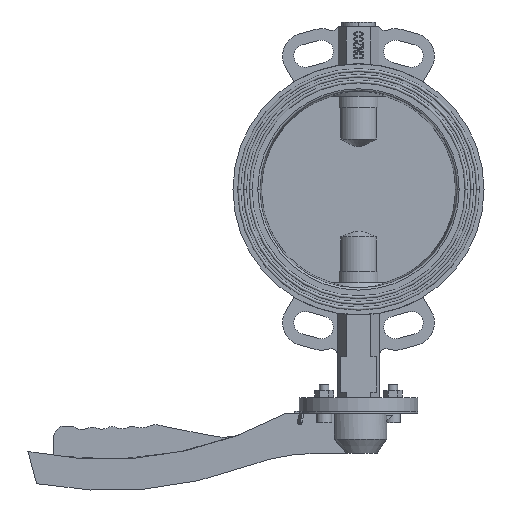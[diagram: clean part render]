
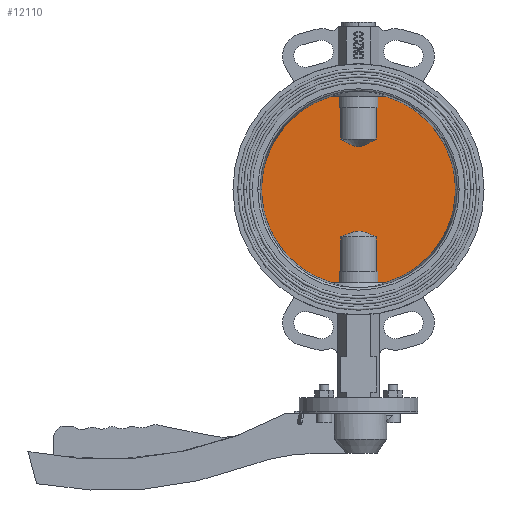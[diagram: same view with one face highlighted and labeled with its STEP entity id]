
A CAD part, front view. The second image highlights one B-rep face of the part: STEP entity #12110.
In plain terms, the highlighted planar face has unit normal (0, -1, 0) as drawn and (0, 1, 0) by its records, which use the part's own axes.
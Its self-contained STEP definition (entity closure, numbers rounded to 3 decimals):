
#11515=DIRECTION('',(0.,0.,-1.));
#11516=VECTOR('',#11515,12.);
#11517=CARTESIAN_POINT('',(20.494,6.5,-86.));
#11518=LINE('',#11517,#11516);
#11519=DIRECTION('',(1.,0.,0.));
#11520=VECTOR('',#11519,7.79);
#11521=CARTESIAN_POINT('',(20.494,6.5,-98.));
#11522=LINE('',#11521,#11520);
#11523=DIRECTION('',(-1.,0.,0.));
#11524=VECTOR('',#11523,7.79);
#11525=CARTESIAN_POINT('',(28.284,6.5,98.));
#11526=LINE('',#11525,#11524);
#11527=DIRECTION('',(0.,0.,-1.));
#11528=VECTOR('',#11527,12.);
#11529=CARTESIAN_POINT('',(20.494,6.5,98.));
#11530=LINE('',#11529,#11528);
#11531=DIRECTION('',(-1.,0.,0.));
#11532=VECTOR('',#11531,1.58);
#11533=CARTESIAN_POINT('',(20.494,6.5,86.));
#11534=LINE('',#11533,#11532);
#11535=DIRECTION('',(0.,0.,-1.));
#11536=VECTOR('',#11535,36.);
#11537=CARTESIAN_POINT('',(18.914,6.5,86.));
#11538=LINE('',#11537,#11536);
#11539=DIRECTION('',(0.,0.,-1.));
#11540=VECTOR('',#11539,36.);
#11541=CARTESIAN_POINT('',(-18.914,6.5,86.));
#11542=LINE('',#11541,#11540);
#11543=DIRECTION('',(-1.,0.,0.));
#11544=VECTOR('',#11543,1.58);
#11545=CARTESIAN_POINT('',(-18.914,6.5,86.));
#11546=LINE('',#11545,#11544);
#11547=DIRECTION('',(0.,0.,-1.));
#11548=VECTOR('',#11547,12.);
#11549=CARTESIAN_POINT('',(-20.494,6.5,98.));
#11550=LINE('',#11549,#11548);
#11551=DIRECTION('',(-1.,0.,0.));
#11552=VECTOR('',#11551,7.79);
#11553=CARTESIAN_POINT('',(-20.494,6.5,98.));
#11554=LINE('',#11553,#11552);
#11555=DIRECTION('',(1.,0.,0.));
#11556=VECTOR('',#11555,7.79);
#11557=CARTESIAN_POINT('',(-28.284,6.5,-98.));
#11558=LINE('',#11557,#11556);
#11559=DIRECTION('',(0.,0.,-1.));
#11560=VECTOR('',#11559,12.);
#11561=CARTESIAN_POINT('',(-20.494,6.5,-86.));
#11562=LINE('',#11561,#11560);
#11563=DIRECTION('',(-1.,0.,0.));
#11564=VECTOR('',#11563,1.58);
#11565=CARTESIAN_POINT('',(-18.914,6.5,-86.));
#11566=LINE('',#11565,#11564);
#11567=DIRECTION('',(0.,0.,-1.));
#11568=VECTOR('',#11567,33.);
#11569=CARTESIAN_POINT('',(-18.914,6.5,-53.));
#11570=LINE('',#11569,#11568);
#11571=DIRECTION('',(0.,0.,-1.));
#11572=VECTOR('',#11571,33.);
#11573=CARTESIAN_POINT('',(18.914,6.5,-53.));
#11574=LINE('',#11573,#11572);
#11575=DIRECTION('',(-1.,0.,0.));
#11576=VECTOR('',#11575,1.58);
#11577=CARTESIAN_POINT('',(20.494,6.5,-86.));
#11578=LINE('',#11577,#11576);
#11588=CARTESIAN_POINT('',(0.,6.5,0.));
#11589=DIRECTION('',(0.,1.,0.));
#11590=DIRECTION('',(0.277,0.,0.961));
#11591=AXIS2_PLACEMENT_3D('',#11588,#11589,#11590);
#11597=CARTESIAN_POINT('',(0.,6.5,0.));
#11598=DIRECTION('',(0.,1.,0.));
#11599=DIRECTION('',(-0.277,0.,-0.961));
#11600=AXIS2_PLACEMENT_3D('',#11597,#11598,#11599);
#11700=CARTESIAN_POINT('',(-18.914,6.5,50.));
#11701=CARTESIAN_POINT('',(-17.848,6.5,49.546));
#11702=CARTESIAN_POINT('',(-15.802,6.5,48.683));
#11703=CARTESIAN_POINT('',(-12.992,6.5,47.53));
#11704=CARTESIAN_POINT('',(-10.427,6.5,46.519));
#11705=CARTESIAN_POINT('',(-8.1,6.5,45.66));
#11706=CARTESIAN_POINT('',(-5.997,6.5,44.962));
#11707=CARTESIAN_POINT('',(-4.126,6.5,44.443));
#11708=CARTESIAN_POINT('',(-2.437,6.5,44.098));
#11709=CARTESIAN_POINT('',(-0.809,6.5,43.918));
#11710=CARTESIAN_POINT('',(0.81,6.5,43.918));
#11711=CARTESIAN_POINT('',(2.438,6.5,44.098));
#11712=CARTESIAN_POINT('',(4.126,6.5,44.443));
#11713=CARTESIAN_POINT('',(5.998,6.5,44.962));
#11714=CARTESIAN_POINT('',(8.1,6.5,45.66));
#11715=CARTESIAN_POINT('',(10.428,6.5,46.519));
#11716=CARTESIAN_POINT('',(12.993,6.5,47.53));
#11717=CARTESIAN_POINT('',(15.802,6.5,48.684));
#11718=CARTESIAN_POINT('',(17.848,6.5,49.546));
#11719=CARTESIAN_POINT('',(18.914,6.5,50.));
#11806=CARTESIAN_POINT('',(18.914,6.5,-53.));
#11807=CARTESIAN_POINT('',(17.916,6.5,-52.433));
#11808=CARTESIAN_POINT('',(15.995,6.5,-51.353));
#11809=CARTESIAN_POINT('',(13.343,6.5,-49.897));
#11810=CARTESIAN_POINT('',(10.906,6.5,-48.607));
#11811=CARTESIAN_POINT('',(8.674,6.5,-47.488));
#11812=CARTESIAN_POINT('',(6.634,6.5,-46.553));
#11813=CARTESIAN_POINT('',(4.782,6.5,-45.817));
#11814=CARTESIAN_POINT('',(3.108,6.5,-45.294));
#11815=CARTESIAN_POINT('',(1.546,6.5,-44.975));
#11816=CARTESIAN_POINT('',(0.005,6.5,-44.863));
#11817=CARTESIAN_POINT('',(-1.536,6.5,-44.973));
#11818=CARTESIAN_POINT('',(-3.091,6.5,-45.289));
#11819=CARTESIAN_POINT('',(-4.755,6.5,-45.807));
#11820=CARTESIAN_POINT('',(-6.608,6.5,-46.541));
#11821=CARTESIAN_POINT('',(-8.647,6.5,-47.475));
#11822=CARTESIAN_POINT('',(-10.883,6.5,-48.594));
#11823=CARTESIAN_POINT('',(-13.326,6.5,-49.888));
#11824=CARTESIAN_POINT('',(-15.985,6.5,-51.347));
#11825=CARTESIAN_POINT('',(-17.912,6.5,-52.431));
#11826=CARTESIAN_POINT('',(-18.914,6.5,-53.));
#11852=CARTESIAN_POINT('',(28.284,6.5,-98.));
#11854=VERTEX_POINT('',#11852);
#11856=CARTESIAN_POINT('',(-28.284,6.5,-98.));
#11858=VERTEX_POINT('',#11856);
#11860=CARTESIAN_POINT('',(-28.284,6.5,98.));
#11862=VERTEX_POINT('',#11860);
#11864=CARTESIAN_POINT('',(28.284,6.5,98.));
#11866=VERTEX_POINT('',#11864);
#11883=CARTESIAN_POINT('',(18.914,6.5,86.));
#11884=CARTESIAN_POINT('',(18.914,6.5,50.));
#11885=VERTEX_POINT('',#11883);
#11886=VERTEX_POINT('',#11884);
#11887=CARTESIAN_POINT('',(20.494,6.5,86.));
#11888=VERTEX_POINT('',#11887);
#11889=CARTESIAN_POINT('',(-18.914,6.5,86.));
#11890=CARTESIAN_POINT('',(-20.494,6.5,86.));
#11891=VERTEX_POINT('',#11889);
#11892=VERTEX_POINT('',#11890);
#11893=CARTESIAN_POINT('',(20.494,6.5,98.));
#11894=VERTEX_POINT('',#11893);
#11895=CARTESIAN_POINT('',(-18.914,6.5,50.));
#11896=VERTEX_POINT('',#11895);
#11897=CARTESIAN_POINT('',(-20.494,6.5,98.));
#11898=VERTEX_POINT('',#11897);
#11915=CARTESIAN_POINT('',(20.494,6.5,-86.));
#11916=CARTESIAN_POINT('',(20.494,6.5,-98.));
#11917=VERTEX_POINT('',#11915);
#11918=VERTEX_POINT('',#11916);
#11919=CARTESIAN_POINT('',(18.914,6.5,-86.));
#11920=VERTEX_POINT('',#11919);
#11921=CARTESIAN_POINT('',(-18.914,6.5,-86.));
#11922=CARTESIAN_POINT('',(-20.494,6.5,-86.));
#11923=VERTEX_POINT('',#11921);
#11924=VERTEX_POINT('',#11922);
#11925=CARTESIAN_POINT('',(18.914,6.5,-53.));
#11926=VERTEX_POINT('',#11925);
#11927=CARTESIAN_POINT('',(-20.494,6.5,-98.));
#11928=VERTEX_POINT('',#11927);
#11929=CARTESIAN_POINT('',(-18.914,6.5,-53.));
#11930=VERTEX_POINT('',#11929);
#12067=CARTESIAN_POINT('',(0.,6.5,0.));
#12068=DIRECTION('',(0.,1.,0.));
#12069=DIRECTION('',(1.,0.,0.));
#12070=AXIS2_PLACEMENT_3D('',#12067,#12068,#12069);
#12071=PLANE('',#12070);
#12072=ORIENTED_EDGE('',*,*,#12036,.T.);
#12073=ORIENTED_EDGE('',*,*,#12046,.T.);
#12075=ORIENTED_EDGE('',*,*,#12074,.F.);
#12077=ORIENTED_EDGE('',*,*,#12076,.T.);
#12079=ORIENTED_EDGE('',*,*,#12078,.T.);
#12081=ORIENTED_EDGE('',*,*,#12080,.T.);
#12083=ORIENTED_EDGE('',*,*,#12082,.T.);
#12085=ORIENTED_EDGE('',*,*,#12084,.F.);
#12087=ORIENTED_EDGE('',*,*,#12086,.F.);
#12089=ORIENTED_EDGE('',*,*,#12088,.T.);
#12091=ORIENTED_EDGE('',*,*,#12090,.F.);
#12093=ORIENTED_EDGE('',*,*,#12092,.T.);
#12095=ORIENTED_EDGE('',*,*,#12094,.F.);
#12096=ORIENTED_EDGE('',*,*,#12049,.T.);
#12097=ORIENTED_EDGE('',*,*,#12032,.F.);
#12099=ORIENTED_EDGE('',*,*,#12098,.F.);
#12101=ORIENTED_EDGE('',*,*,#12100,.F.);
#12103=ORIENTED_EDGE('',*,*,#12102,.F.);
#12105=ORIENTED_EDGE('',*,*,#12104,.T.);
#12107=ORIENTED_EDGE('',*,*,#12106,.F.);
#12108=EDGE_LOOP('',(#12072,#12073,#12075,#12077,#12079,#12081,#12083,#12085,
#12087,#12089,#12091,#12093,#12095,#12096,#12097,#12099,#12101,#12103,#12105,
#12107));
#12109=FACE_OUTER_BOUND('',#12108,.F.);
#12110=ADVANCED_FACE('',(#12109),#12071,.T.);
#11592=CIRCLE('',#11591,102.);
#11601=CIRCLE('',#11600,102.);
#11720=B_SPLINE_CURVE_WITH_KNOTS('',3,(#11700,#11701,#11702,#11703,#11704,
#11705,#11706,#11707,#11708,#11709,#11710,#11711,#11712,#11713,#11714,#11715,
#11716,#11717,#11718,#11719),.UNSPECIFIED.,.F.,.F.,(4,1,1,1,1,1,1,1,1,1,1,1,1,1,
1,1,1,4),(0.,0.059,0.118,0.176,
0.235,0.294,0.353,0.412,
0.471,0.529,0.588,0.647,
0.706,0.765,0.824,0.882,
0.941,1.),.UNSPECIFIED.);
#11827=B_SPLINE_CURVE_WITH_KNOTS('',3,(#11806,#11807,#11808,#11809,#11810,
#11811,#11812,#11813,#11814,#11815,#11816,#11817,#11818,#11819,#11820,#11821,
#11822,#11823,#11824,#11825,#11826),.UNSPECIFIED.,.F.,.F.,(4,1,1,1,1,1,1,1,1,1,
1,1,1,1,1,1,1,1,4),(0.,0.056,0.111,0.167,
0.222,0.278,0.333,0.389,
0.444,0.5,0.556,0.611,0.667,
0.722,0.778,0.833,0.889,
0.944,1.),.UNSPECIFIED.);
#12032=EDGE_CURVE('',#11924,#11928,#11562,.T.);
#12036=EDGE_CURVE('',#11917,#11918,#11518,.T.);
#12046=EDGE_CURVE('',#11918,#11854,#11522,.T.);
#12049=EDGE_CURVE('',#11858,#11928,#11558,.T.);
#12074=EDGE_CURVE('',#11866,#11854,#11592,.T.);
#12076=EDGE_CURVE('',#11866,#11894,#11526,.T.);
#12078=EDGE_CURVE('',#11894,#11888,#11530,.T.);
#12080=EDGE_CURVE('',#11888,#11885,#11534,.T.);
#12082=EDGE_CURVE('',#11885,#11886,#11538,.T.);
#12084=EDGE_CURVE('',#11896,#11886,#11720,.T.);
#12086=EDGE_CURVE('',#11891,#11896,#11542,.T.);
#12088=EDGE_CURVE('',#11891,#11892,#11546,.T.);
#12090=EDGE_CURVE('',#11898,#11892,#11550,.T.);
#12092=EDGE_CURVE('',#11898,#11862,#11554,.T.);
#12094=EDGE_CURVE('',#11858,#11862,#11601,.T.);
#12098=EDGE_CURVE('',#11923,#11924,#11566,.T.);
#12100=EDGE_CURVE('',#11930,#11923,#11570,.T.);
#12102=EDGE_CURVE('',#11926,#11930,#11827,.T.);
#12104=EDGE_CURVE('',#11926,#11920,#11574,.T.);
#12106=EDGE_CURVE('',#11917,#11920,#11578,.T.);
